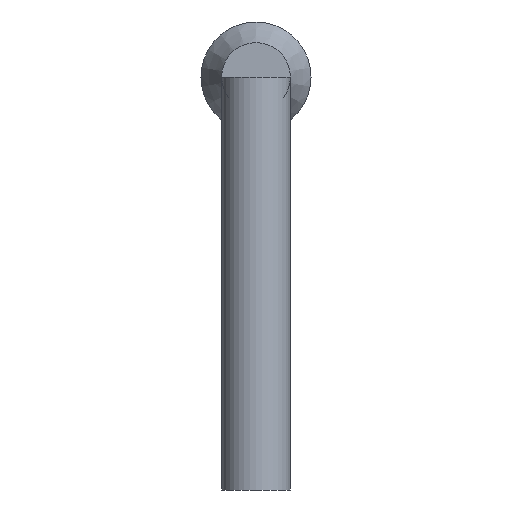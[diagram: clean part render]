
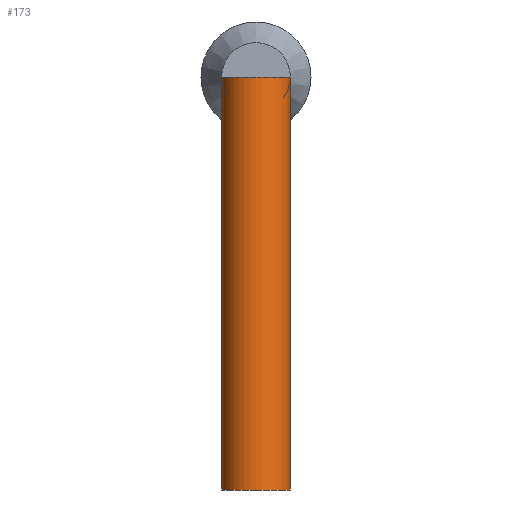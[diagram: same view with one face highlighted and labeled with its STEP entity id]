
A CAD part, left-side view. The second image highlights one B-rep face of the part: STEP entity #173.
In plain terms, the highlighted cylindrical face has radius 0.25 mm (diameter 0.5 mm), a full revolution.
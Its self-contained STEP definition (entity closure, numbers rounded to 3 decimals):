
#173 = ADVANCED_FACE('',(#174),#201,.T.);
#174 = FACE_BOUND('',#175,.T.);
#175 = EDGE_LOOP('',(#176,#185,#193,#200));
#176 = ORIENTED_EDGE('',*,*,#177,.F.);
#177 = EDGE_CURVE('',#178,#178,#180,.T.);
#178 = VERTEX_POINT('',#179);
#179 = CARTESIAN_POINT('',(-19.3,0.,-3.));
#180 = CIRCLE('',#181,0.25);
#181 = AXIS2_PLACEMENT_3D('',#182,#183,#184);
#182 = CARTESIAN_POINT('',(-19.05,0.,-3.));
#183 = DIRECTION('',(0.,0.,-1.));
#184 = DIRECTION('',(-1.,0.,-0.));
#185 = ORIENTED_EDGE('',*,*,#186,.F.);
#186 = EDGE_CURVE('',#187,#178,#189,.T.);
#187 = VERTEX_POINT('',#188);
#188 = CARTESIAN_POINT('',(-19.3,0.,0.));
#189 = LINE('',#190,#191);
#190 = CARTESIAN_POINT('',(-19.3,0.,0.));
#191 = VECTOR('',#192,1.);
#192 = DIRECTION('',(0.,0.,-1.));
#193 = ORIENTED_EDGE('',*,*,#194,.T.);
#194 = EDGE_CURVE('',#187,#187,#195,.T.);
#195 = CIRCLE('',#196,0.25);
#196 = AXIS2_PLACEMENT_3D('',#197,#198,#199);
#197 = CARTESIAN_POINT('',(-19.05,0.,0.));
#198 = DIRECTION('',(0.,0.,-1.));
#199 = DIRECTION('',(-1.,0.,-0.));
#200 = ORIENTED_EDGE('',*,*,#186,.T.);
#201 = CYLINDRICAL_SURFACE('',#202,0.25);
#202 = AXIS2_PLACEMENT_3D('',#203,#204,#205);
#203 = CARTESIAN_POINT('',(-19.05,0.,0.));
#204 = DIRECTION('',(0.,0.,-1.));
#205 = DIRECTION('',(-1.,0.,-0.));
